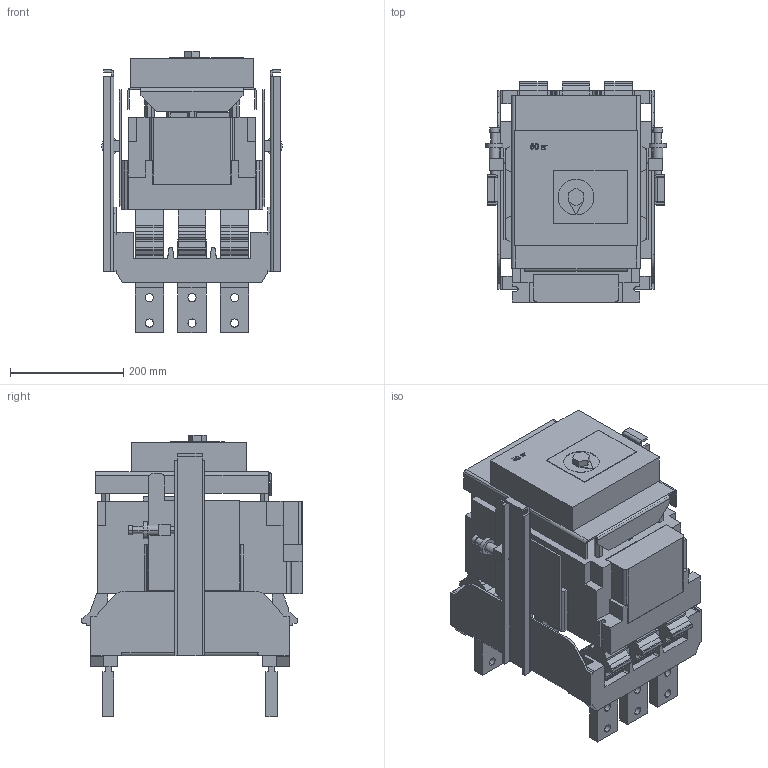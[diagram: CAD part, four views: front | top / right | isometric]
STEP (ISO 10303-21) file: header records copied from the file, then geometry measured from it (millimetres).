
FILE_DESCRIPTION (( 'STEP AP214' ), '1' );
FILE_NAME ('ÂÀ53(55)-41 ÂÈ ñ ÝÌ ïðèâîäîì.STEP', '2023-02-13T11:30:28', ( 'user' ), ( '' ), 'SwSTEP 2.0', 'SolidWorks 2018', '' );
FILE_SCHEMA (( 'AUTOMOTIVE_DESIGN' ));
Length unit declared in the file: millimetre
Products named in the file (1): ÂÀ53(55)-41 ÂÈ ñ ÝÌ ïðèâîäîì
Bounding box: 318 x 388.85 x 496.15 mm (x, y, z)
Volume: 19584580 mm3; surface area: 1437522.4 mm2
Topology: 1 solids, 1 shells, 850 faces, 2504 edges, 1669 vertices
Faces by surface type: plane 610, cylinder 229, cone 7, bspline 4
Entity records: 28749 total; most frequent: CARTESIAN_POINT 5557, ORIENTED_EDGE 5000, DIRECTION 4613, EDGE_CURVE 2500, LINE 1987, VECTOR 1987, VERTEX_POINT 1669, AXIS2_PLACEMENT_3D 1313
